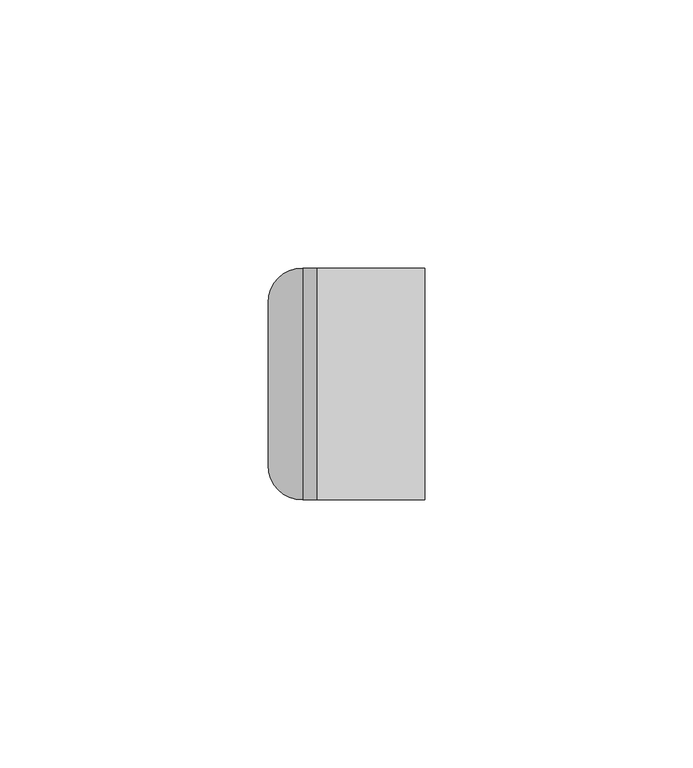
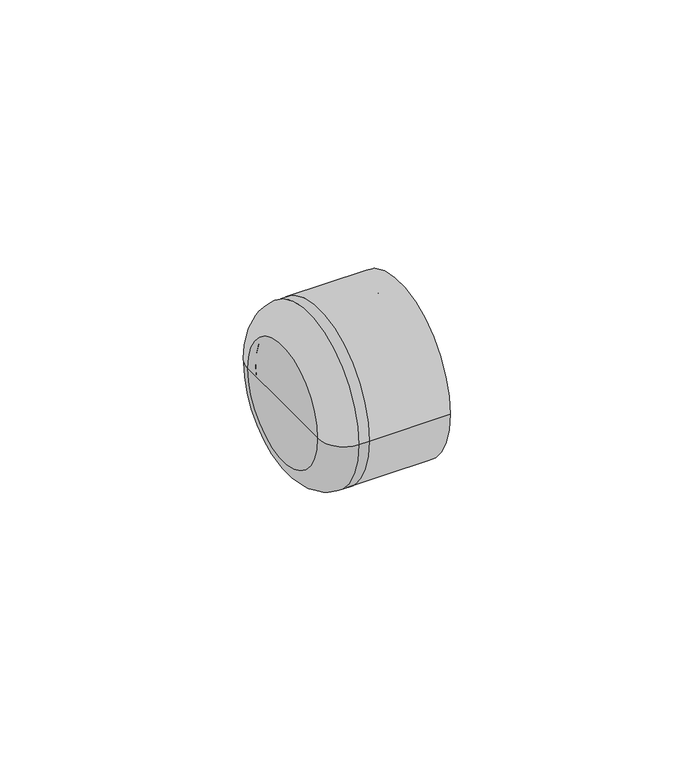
"""IFC4 building model written with IfcOpenShell, lengths in millimetres: pipe fitting geometry, 09_Заглушка : Белый цвет."""

from ifc_helpers import new_model, si_unit, point, frame, origin, place, context, project, spatial, polyline, circle_curve, ellipse_curve, trimmed, source, transform, mapped, element, save
from ifc_brep_helpers import plane_surface, cylinder_surface, revolved_surface, advanced_brep


def pipe_fitting_b8240ae8(model_context):
    return source(origin(), model_context, "Body", "AdvancedBrep", [
        advanced_brep(
        [(20.0, -21.6, 0.0), (20.0, 21.6, 0.0), (20.0, 16.0, 0.0), (20.0, -16.0, 0.0), (0.0, -21.6, 0.0), (0.0, 21.6, 0.0), (0.0, 16.0, 0.0), (0.0, -16.0, 0.0), (-9.17, -15.1721604, 0.0), (-9.17, 15.1721604, 0.0), (-2.7421604, 21.6, 0.0), (-2.7421604, -21.6, 0.0), (-9.17, 0.0, 0.0), (-7.17, -14.63, 0.0), (-7.17, 14.63, 0.0), (-7.17, 0.0, 0.0), (-5.8, -16.0, 0.0), (-5.8, 16.0, 0.0)],
        [
            (0, 1, circle_curve(frame((20.0, 0.0, 0.0), z_axis=(1.0, 0.0, 0.0), x_axis=(0.0, 1.0, 0.0)), 21.6)),
            (1, 0, circle_curve(frame((20.0, 0.0, 0.0), z_axis=(1.0, 0.0, 0.0), x_axis=(0.0, 1.0, 0.0)), 21.6)),
            (2, 3, circle_curve(frame((20.0, 0.0, 0.0), z_axis=(-1.0, 0.0, 0.0), x_axis=(0.0, 1.0, 0.0)), 16.0)),
            (3, 2, circle_curve(frame((20.0, 0.0, 0.0), z_axis=(-1.0, 0.0, 0.0), x_axis=(0.0, 1.0, 0.0)), 16.0)),
            (0, 4),
            (4, 5, circle_curve(frame((0.0, 0.0, 0.0), z_axis=(1.0, 0.0, 0.0), x_axis=(0.0, 1.0, 0.0)), 21.6)),
            (5, 1),
            (5, 4, circle_curve(frame((0.0, 0.0, 0.0), z_axis=(1.0, 0.0, 0.0), x_axis=(0.0, 1.0, 0.0)), 21.6)),
            (2, 6),
            (6, 7, circle_curve(frame((0.0, 0.0, 0.0), z_axis=(-1.0, 0.0, 0.0), x_axis=(0.0, 1.0, 0.0)), 16.0)),
            (7, 3),
            (7, 6, circle_curve(frame((0.0, 0.0, 0.0), z_axis=(-1.0, 0.0, 0.0), x_axis=(0.0, 1.0, 0.0)), 16.0)),
            (8, 9, circle_curve(frame((-9.17, 0.0, 0.0), z_axis=(1.0, 0.0, 0.0), x_axis=(0.0, 1.0, 0.0)), 15.1721604)),
            (9, 10, circle_curve(frame((-2.7421604, 15.1721604, 0.0), z_axis=(0.0, 0.0, -1.0), x_axis=(1.0, 0.0, 0.0)), 6.4278396)),
            (10, 11, circle_curve(frame((-2.7421604, 0.0, 0.0), z_axis=(-1.0, 0.0, 0.0), x_axis=(0.0, 1.0, 0.0)), 21.6)),
            (11, 8, circle_curve(frame((-2.7421604, -15.1721604, 0.0), z_axis=(0.0, 0.0, -1.0), x_axis=(1.0, 0.0, 0.0)), 6.4278396)),
            (9, 8, circle_curve(frame((-9.17, 0.0, 0.0), z_axis=(1.0, 0.0, 0.0), x_axis=(0.0, 1.0, 0.0)), 15.1721604)),
            (11, 10, circle_curve(frame((-2.7421604, 0.0, 0.0), z_axis=(-1.0, 0.0, 0.0), x_axis=(0.0, 1.0, 0.0)), 21.6)),
            (8, 12),
            (12, 9),
            (13, 14, circle_curve(frame((-7.17, 0.0, 0.0), z_axis=(1.0, 0.0, 0.0), x_axis=(0.0, 1.0, 0.0)), 14.63)),
            (14, 15),
            (15, 13),
            (14, 13, circle_curve(frame((-7.17, 0.0, 0.0), z_axis=(1.0, 0.0, 0.0), x_axis=(0.0, 1.0, 0.0)), 14.63)),
            (13, 16, circle_curve(frame((-5.8, -14.63, 0.0), z_axis=(0.0, 0.0, 1.0), x_axis=(1.0, 0.0, 0.0)), 1.37)),
            (16, 17, circle_curve(frame((-5.8, 0.0, 0.0), z_axis=(1.0, 0.0, 0.0), x_axis=(0.0, 1.0, 0.0)), 16.0)),
            (17, 14, circle_curve(frame((-5.8, 14.63, 0.0), z_axis=(0.0, 0.0, 1.0), x_axis=(1.0, 0.0, 0.0)), 1.37)),
            (17, 16, circle_curve(frame((-5.8, 0.0, 0.0), z_axis=(1.0, 0.0, 0.0), x_axis=(0.0, 1.0, 0.0)), 16.0)),
            (16, 7),
            (6, 17),
            (10, 5),
            (4, 11),
        ],
        [
            plane_surface(frame((20.0, 21.6, 0.0), z_axis=(1.0, 0.0, 0.0), x_axis=(0.0, 0.0, 1.0))),
            cylinder_surface(frame((0.0, 0.0, 0.0), z_axis=(1.0, 0.0, 0.0), x_axis=(0.0, 1.0, 0.0)), 21.6),
            revolved_surface(polyline([(20.0, 16.0, 0.0), (0.0, 16.0, 0.0)]), (0.0, 0.0, 0.0), (1.0, 0.0, 0.0)),
            revolved_surface(trimmed(ellipse_curve(frame((-2.7421604, 15.1721604, 0.0), z_axis=(0.0, 0.0, 1.0), x_axis=(1.0, 0.0, 0.0)), 6.4278396, 6.4278396), [point((-2.7421604, 21.6, 0.0))], [point((-9.17, 15.1721604, 0.0))], True, "CARTESIAN"), (-9.17, 0.0, 0.0), (-1.0, 0.0, 0.0)),
            plane_surface(frame((-9.17, 0.0, 0.0), z_axis=(-1.0, 0.0, 0.0), x_axis=(0.0, 1.0, 0.0))),
            plane_surface(frame((-7.17, 0.0, 0.0), z_axis=(1.0, 0.0, 0.0), x_axis=(0.0, 1.0, 0.0))),
            revolved_surface(trimmed(ellipse_curve(frame((-5.8, 14.63, 0.0), z_axis=(0.0, 0.0, -1.0), x_axis=(1.0, 0.0, 0.0)), 1.37, 1.37), [point((-7.17, 14.63, 0.0))], [point((-5.8, 16.0, 0.0))], True, "CARTESIAN"), (-9.17, 0.0, 0.0), (-1.0, 0.0, 0.0)),
            revolved_surface(polyline([(-5.8, 16.0, 0.0), (0.0, 16.0, 0.0)]), (-9.17, 0.0, 0.0), (-1.0, 0.0, 0.0)),
            cylinder_surface(frame((-9.17, 0.0, 0.0), z_axis=(-1.0, 0.0, 0.0), x_axis=(0.0, 1.0, 0.0)), 21.6),
        ],
        [
            (0, [[1, 2], [3, 4]]),
            (1, [[-1, 5, 6, 7]]),
            (1, [[-2, -7, 8, -5]]),
            (2, [[9, 10, 11, -3]]),
            (2, [[-9, -4, -11, 12]]),
            (3, [[13, 14, 15, 16]]),
            (3, [[-14, 17, -16, 18]]),
            (4, [[-13, 19, 20]]),
            (4, [[-17, -20, -19]]),
            (5, [[21, 22, 23]]),
            (5, [[-22, 24, -23]]),
            (6, [[-21, 25, 26, 27]]),
            (6, [[-24, -27, 28, -25]]),
            (7, [[-26, 29, -10, 30]]),
            (7, [[-28, -30, -12, -29]]),
            (8, [[-15, 31, -6, 32]]),
            (8, [[-18, -32, -8, -31]]),
        ],
    ),
    ])


if __name__ == "__main__":
    model = new_model("IFC4")
    model_context = context("Model", 3, world=origin())
    ifc_project = project(units=[si_unit("LENGTHUNIT", "METRE", prefix="MILLI")], contexts=[model_context])
    site = spatial("IfcSite", under=ifc_project)
    building = spatial("IfcBuilding", under=site)
    placement = place(None, origin())
    pipe_fitting_shape = pipe_fitting_b8240ae8(model_context)
    element("IfcPipeFitting", 1, ObjectType="09_Заглушка : Белый цвет", at=placement, inside=building, context=model_context, shape_type="MappedRepresentation", body=[
        mapped(pipe_fitting_shape, transform((0.0, 0.0, 0.0), x_axis=(1.0, 0.0, 0.0), y_axis=(0.0, 1.0, 0.0), z_axis=(0.0, 0.0, 1.0))),
    ])
    save(model, "model.ifc")
